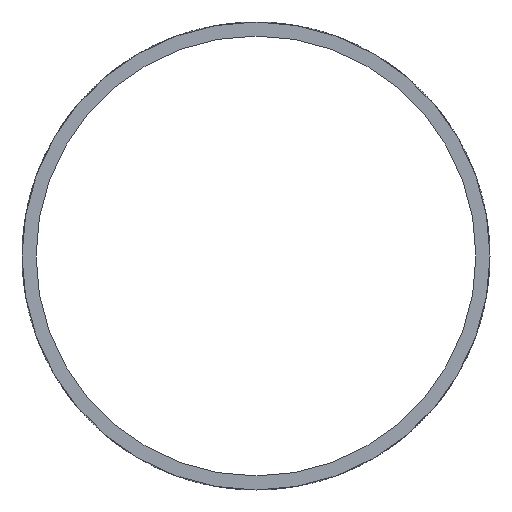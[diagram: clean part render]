
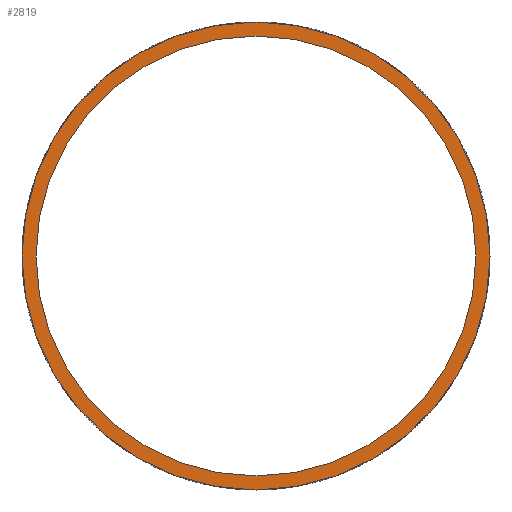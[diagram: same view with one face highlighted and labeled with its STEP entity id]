
A CAD part, front view. The second image highlights one B-rep face of the part: STEP entity #2819.
In plain terms, the highlighted planar face has unit normal (0, -1, 0).
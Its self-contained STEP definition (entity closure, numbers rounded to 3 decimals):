
#16=FACE_BOUND('',#538,.T.);
#51=CIRCLE('',#3090,40.);
#67=CIRCLE('',#3135,37.6);
#238=PLANE('',#3139);
#387=FACE_OUTER_BOUND('',#537,.T.);
#537=EDGE_LOOP('',(#2594));
#538=EDGE_LOOP('',(#2595));
#1254=VERTEX_POINT('',#6906);
#1271=VERTEX_POINT('',#7113);
#1669=EDGE_CURVE('',#1254,#1254,#51,.T.);
#1711=EDGE_CURVE('',#1271,#1271,#67,.T.);
#2594=ORIENTED_EDGE('',*,*,#1669,.F.);
#2595=ORIENTED_EDGE('',*,*,#1711,.F.);
#2819=ADVANCED_FACE('',(#387,#16),#238,.F.);
#3090=AXIS2_PLACEMENT_3D('',#6908,#3770,#3771);
#3135=AXIS2_PLACEMENT_3D('',#7115,#3872,#3873);
#3139=AXIS2_PLACEMENT_3D('',#7121,#3881,#3882);
#3770=DIRECTION('center_axis',(0.,1.,0.));
#3771=DIRECTION('ref_axis',(-1.,0.,0.));
#3872=DIRECTION('center_axis',(0.,-1.,0.));
#3873=DIRECTION('ref_axis',(1.,0.,0.));
#3881=DIRECTION('center_axis',(0.,1.,0.));
#3882=DIRECTION('ref_axis',(0.,0.,1.));
#6906=CARTESIAN_POINT('',(40.,0.,0.));
#6908=CARTESIAN_POINT('Origin',(0.,0.,0.));
#7113=CARTESIAN_POINT('',(-37.6,0.,0.));
#7115=CARTESIAN_POINT('Origin',(0.,0.,0.));
#7121=CARTESIAN_POINT('Origin',(0.,0.,0.));
